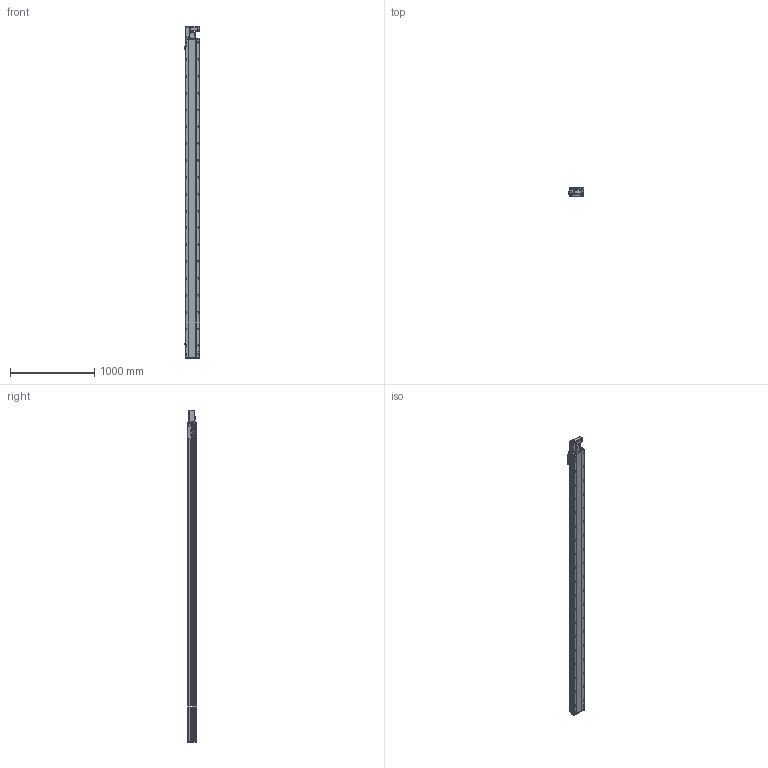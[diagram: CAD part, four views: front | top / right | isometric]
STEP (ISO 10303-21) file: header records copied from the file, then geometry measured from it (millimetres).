
FILE_DESCRIPTION (( 'STEP AP214' ), '1' );
FILE_NAME ('RTB17S-XX-3500-L-M40-C4.STEP', '2025-12-11T06:08:47', ( '' ), ( '' ), 'SwSTEP 2.0', 'SolidWorks 2018', '' );
FILE_SCHEMA (( 'AUTOMOTIVE_DESIGN' ));
Length unit declared in the file: millimetre
Products named in the file (14): RMP17S-L-014-T20--々湍釱^RTB17S-L-々湍釱蚾饜-400W_RTB17S-XX-XX-L-M40-C4; RTB17S-L-々湍釱蚾饜-400W^RTB17S-XX-XX-L-M40-C4; RTB14-L-017P^RTB17S-L-々湍釱蚾饜-400W_RTB17S-XX-XX-L-M40-C4; RTB14-L-008-M20--萇儂啣^RTB17S-L-々湍釱蚾饜-400W_RTB17S-XX-XX-L-M40-C4; RTB17S-XX-3500-L-M40-C4; RTB17S-L-007奻裔^RTB17S-XX-XX-L-M40-C4; RTB14-L-005P--轴承塑胶压盖^RTB17S-L-皮带座装配-400W_RTB17S-XX-XX-L-M40-C4; RTH13-BL-012覜茼え俋离^RTB17S-XX-XX-L-M40-C4; RTB14-L-018P^RTB17S-L-々湍釱蚾饜-400W_RTB17S-XX-XX-L-M40-C4; RTB17S-L-001耜醱啣^RTB17S-XX-XX-L-M40-C4; RTB17-R-011菁釱^RTB17S-XX-XX-L-M40-C4; 400W侜督萇儂^RTB17S-XX-XX-L-M40-C4; RTB17S-L-004佪裝蹟譫蟀諉釱^RTB17S-XX-XX-L-M40-C4; OMRON EE-SX672 传感器^RTB17S-XX-XX-L-M40-C4
Assembly tree (16 placements, depth 3):
  RTB17S-XX-3500-L-M40-C4
    RTB17-R-011菁釱^RTB17S-XX-XX-L-M40-C4
    RTB17S-L-007奻裔^RTB17S-XX-XX-L-M40-C4
    OMRON EE-SX672 传感器^RTB17S-XX-XX-L-M40-C4  x3
    RTB17S-L-001耜醱啣^RTB17S-XX-XX-L-M40-C4
    400W侜督萇儂^RTB17S-XX-XX-L-M40-C4
    RTB17S-L-004佪裝蹟譫蟀諉釱^RTB17S-XX-XX-L-M40-C4
    RTH13-BL-012覜茼え俋离^RTB17S-XX-XX-L-M40-C4
    RTB17S-L-々湍釱蚾饜-400W^RTB17S-XX-XX-L-M40-C4
      RMP17S-L-014-T20--々湍釱^RTB17S-L-々湍釱蚾饜-400W_RTB17S-XX-XX-L-M40-C4
      RTB14-L-005P--轴承塑胶压盖^RTB17S-L-皮带座装配-400W_RTB17S-XX-XX-L-M40-C4
      RTB14-L-008-M20--萇儂啣^RTB17S-L-々湍釱蚾饜-400W_RTB17S-XX-XX-L-M40-C4
      RTB14-L-017P^RTB17S-L-々湍釱蚾饜-400W_RTB17S-XX-XX-L-M40-C4  x2
      RTB14-L-018P^RTB17S-L-々湍釱蚾饜-400W_RTB17S-XX-XX-L-M40-C4
Bounding box: 186 x 108 x 3941 mm (x, y, z)
Volume: 32759005.9 mm3; surface area: 3722192.6 mm2
Topology: 15 solids, 15 shells, 2413 faces, 6789 edges, 4437 vertices
Faces by surface type: plane 1094, cylinder 871, bspline 301, cone 139, torus 8
Entity records: 72617 total; most frequent: CARTESIAN_POINT 20794, ORIENTED_EDGE 10422, DIRECTION 9566, EDGE_CURVE 5211, VERTEX_POINT 3425, AXIS2_PLACEMENT_3D 3355, VECTOR 2856, LINE 2856
